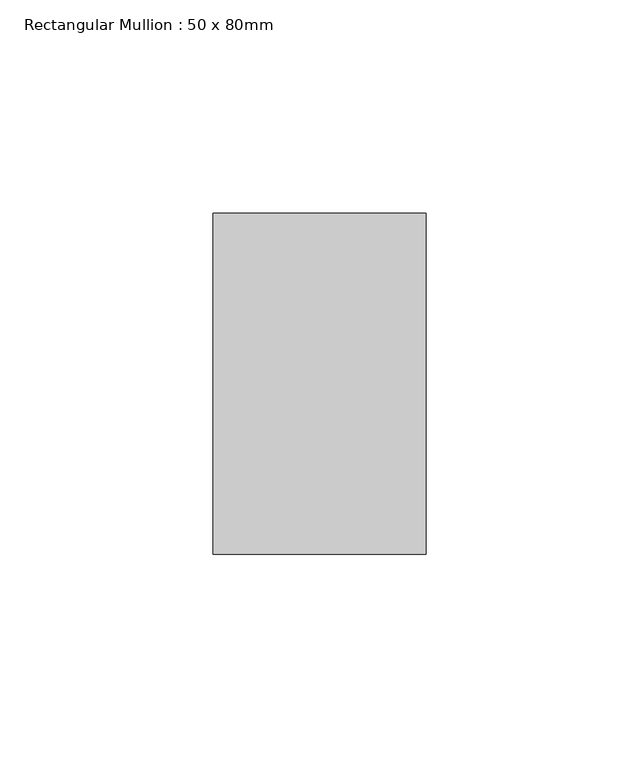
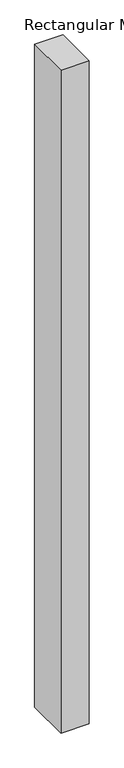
"""IFC4 building model written with IfcOpenShell, lengths in millimetres: member geometry, Rectangular Mullion : 50 x 80mm."""

from ifc_helpers import new_model, si_unit, frame, origin, place, context, project, spatial, polyline, outline, extrude, source, transform, mapped, element, save


def rectangular_mullion_50_x_80mm_1b52a698(model_context):
    return source(origin(), model_context, "Body", "SweptSolid", [
        extrude(outline(polyline([(0.0, 25.0), (0.0, -55.0), (-50.0, -55.0), (-50.0, 25.0), (0.0, 25.0)])), frame((0.0, 0.0, -1240.0), z_axis=(0.0, 0.0, 1.0), x_axis=(1.0, 0.0, 0.0)), (0.0, 0.0, 1.0), 1240.0),
    ])


if __name__ == "__main__":
    model = new_model("IFC4")
    model_context = context("Model", 3, world=origin())
    ifc_project = project(units=[si_unit("LENGTHUNIT", "METRE", prefix="MILLI")], contexts=[model_context])
    site = spatial("IfcSite", under=ifc_project)
    building = spatial("IfcBuilding", under=site)
    placement = place(None, origin())
    rectangular_mullion_50_x_80mm_shape = rectangular_mullion_50_x_80mm_1b52a698(model_context)
    element("IfcMember", 1, ObjectType="Rectangular Mullion : 50 x 80mm", at=placement, inside=building, context=model_context, shape_type="MappedRepresentation", body=[
        mapped(rectangular_mullion_50_x_80mm_shape, transform((0.0, 0.0, 0.0), x_axis=(1.0, 0.0, 0.0), y_axis=(0.0, 1.0, 0.0), z_axis=(0.0, 0.0, 1.0))),
    ])
    save(model, "model.ifc")
